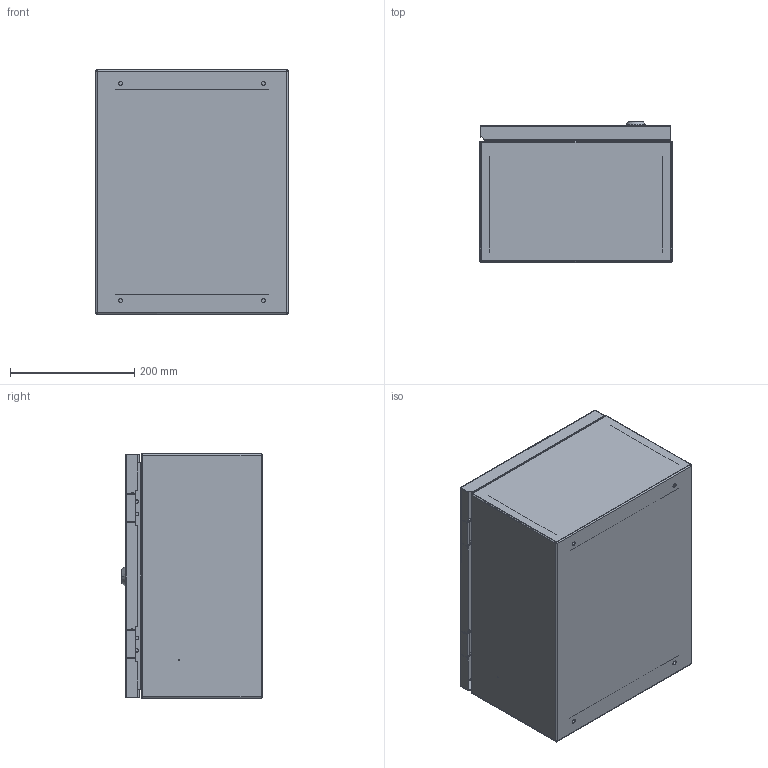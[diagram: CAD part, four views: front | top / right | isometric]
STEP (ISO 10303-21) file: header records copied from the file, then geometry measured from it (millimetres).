
FILE_DESCRIPTION (( 'STEP AP214' ), '1' );
FILE_NAME ('ÙÌÏ-01-395õ310õ220-IP31-ÓÕË3-ÊÝÀÇ.STEP', '2023-01-24T12:21:54', ( '' ), ( '' ), 'SwSTEP 2.0', 'SolidWorks 2018', '' );
FILE_SCHEMA (( 'AUTOMOTIVE_DESIGN' ));
Length unit declared in the file: millimetre
Products named in the file (1): ÙÌÏ-01-395õ310õ220-IP31-ÓÕË3-ÊÝÀÇ
Bounding box: 310 x 226.7 x 395 mm (x, y, z)
Surface area: 1130218.1 mm2 (no closed solid volume)
Topology: 0 solids, 35 shells, 182 faces, 648 edges, 488 vertices
Faces by surface type: plane 97, cylinder 61, bspline 16, torus 6, cone 2
Entity records: 10586 total; most frequent: CARTESIAN_POINT 3201, DIRECTION 1098, ORIENTED_EDGE 908, EDGE_CURVE 648, VERTEX_POINT 488, VECTOR 388, LINE 388, AXIS2_PLACEMENT_3D 355
